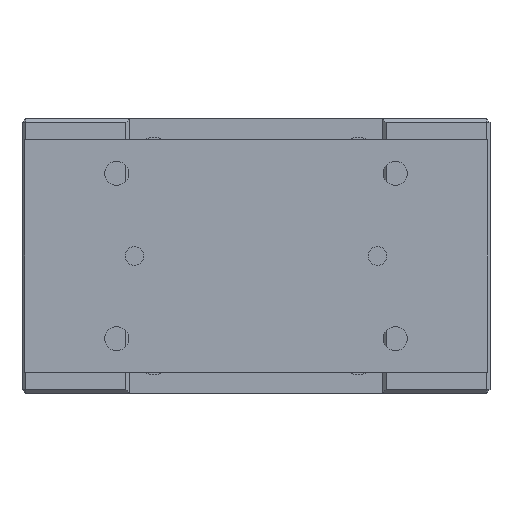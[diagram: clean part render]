
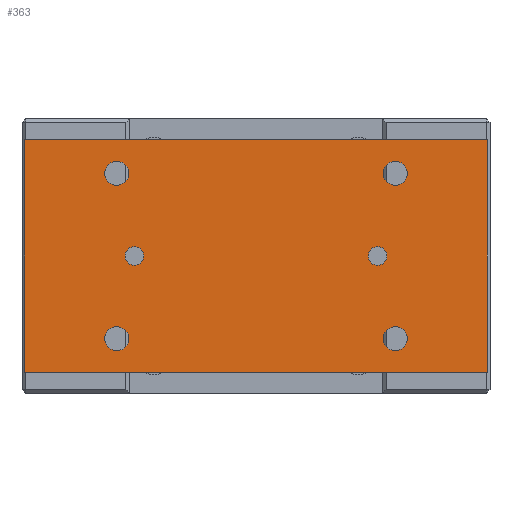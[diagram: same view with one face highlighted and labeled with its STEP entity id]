
A CAD part, left-side view. The second image highlights one B-rep face of the part: STEP entity #363.
In plain terms, the highlighted planar face has unit normal (-1, 0, 0).
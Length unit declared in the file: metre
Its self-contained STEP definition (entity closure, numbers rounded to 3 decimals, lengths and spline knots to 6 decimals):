
#363 = ADVANCED_FACE( '', ( #929, #930, #931, #932, #933, #934, #935 ), #936, .T. );
#929 = FACE_BOUND( '', #1819, .T. );
#930 = FACE_BOUND( '', #1820, .T. );
#931 = FACE_BOUND( '', #1821, .T. );
#932 = FACE_BOUND( '', #1822, .T. );
#933 = FACE_BOUND( '', #1823, .T. );
#934 = FACE_BOUND( '', #1824, .T. );
#935 = FACE_OUTER_BOUND( '', #1825, .T. );
#936 = PLANE( '', #1826 );
#1819 = EDGE_LOOP( '', ( #2866 ) );
#1820 = EDGE_LOOP( '', ( #2867 ) );
#1821 = EDGE_LOOP( '', ( #2868 ) );
#1822 = EDGE_LOOP( '', ( #2869 ) );
#1823 = EDGE_LOOP( '', ( #2870 ) );
#1824 = EDGE_LOOP( '', ( #2871 ) );
#1825 = EDGE_LOOP( '', ( #2872, #2873, #2874, #2875 ) );
#1826 = AXIS2_PLACEMENT_3D( '', #2876, #2877, #2878 );
#2866 = ORIENTED_EDGE( '', *, *, #4450, .F. );
#2867 = ORIENTED_EDGE( '', *, *, #4451, .T. );
#2868 = ORIENTED_EDGE( '', *, *, #4364, .F. );
#2869 = ORIENTED_EDGE( '', *, *, #4452, .F. );
#2870 = ORIENTED_EDGE( '', *, *, #4453, .F. );
#2871 = ORIENTED_EDGE( '', *, *, #4454, .F. );
#2872 = ORIENTED_EDGE( '', *, *, #4299, .T. );
#2873 = ORIENTED_EDGE( '', *, *, #4455, .T. );
#2874 = ORIENTED_EDGE( '', *, *, #4456, .T. );
#2875 = ORIENTED_EDGE( '', *, *, #4457, .T. );
#2876 = CARTESIAN_POINT( '', ( -0.143, -0.1245, -0.0115 ) );
#2877 = DIRECTION( '', ( -1., 0., 0. ) );
#2878 = DIRECTION( '', ( 0., 0., 1. ) );
#4299 = EDGE_CURVE( '', #4952, #4950, #4953, .T. );
#4364 = EDGE_CURVE( '', #5062, #5062, #5063, .T. );
#4450 = EDGE_CURVE( '', #5198, #5198, #5199, .T. );
#4451 = EDGE_CURVE( '', #5200, #5200, #5201, .T. );
#4452 = EDGE_CURVE( '', #5202, #5202, #5203, .T. );
#4453 = EDGE_CURVE( '', #5204, #5204, #5205, .T. );
#4454 = EDGE_CURVE( '', #5206, #5206, #5207, .T. );
#4455 = EDGE_CURVE( '', #4950, #5208, #5209, .T. );
#4456 = EDGE_CURVE( '', #5208, #5210, #5211, .T. );
#4457 = EDGE_CURVE( '', #5210, #4952, #5212, .T. );
#4950 = VERTEX_POINT( '', #5882 );
#4952 = VERTEX_POINT( '', #5885 );
#4953 = LINE( '', #5886, #5887 );
#5062 = VERTEX_POINT( '', #6030 );
#5063 = CIRCLE( '', #6031, 0.0065 );
#5198 = VERTEX_POINT( '', #6272 );
#5199 = CIRCLE( '', #6273, 0.005 );
#5200 = VERTEX_POINT( '', #6274 );
#5201 = CIRCLE( '', #6275, 0.005 );
#5202 = VERTEX_POINT( '', #6276 );
#5203 = CIRCLE( '', #6277, 0.0065 );
#5204 = VERTEX_POINT( '', #6278 );
#5205 = CIRCLE( '', #6279, 0.0065 );
#5206 = VERTEX_POINT( '', #6280 );
#5207 = CIRCLE( '', #6281, 0.0065 );
#5208 = VERTEX_POINT( '', #6282 );
#5209 = LINE( '', #6283, #6284 );
#5210 = VERTEX_POINT( '', #6285 );
#5211 = LINE( '', #6286, #6287 );
#5212 = LINE( '', #6288, #6289 );
#5882 = CARTESIAN_POINT( '', ( -0.143, -0.1245, -0.0115 ) );
#5885 = CARTESIAN_POINT( '', ( -0.143, -0.1245, -0.1365 ) );
#5886 = CARTESIAN_POINT( '', ( -0.143, -0.1245, -0.1365 ) );
#5887 = VECTOR( '', #7315, 1. );
#6030 = CARTESIAN_POINT( '', ( -0.143, -0.075, -0.112 ) );
#6031 = AXIS2_PLACEMENT_3D( '', #7395, #7396, #7397 );
#6272 = CARTESIAN_POINT( '', ( -0.143, -0.0705, -0.074 ) );
#6273 = AXIS2_PLACEMENT_3D( '', #7489, #7490, #7491 );
#6274 = CARTESIAN_POINT( '', ( -0.143, 0.0705, -0.074 ) );
#6275 = AXIS2_PLACEMENT_3D( '', #7492, #7493, #7494 );
#6276 = CARTESIAN_POINT( '', ( -0.143, 0.075, -0.112 ) );
#6277 = AXIS2_PLACEMENT_3D( '', #7495, #7496, #7497 );
#6278 = CARTESIAN_POINT( '', ( -0.143, -0.075, -0.023 ) );
#6279 = AXIS2_PLACEMENT_3D( '', #7498, #7499, #7500 );
#6280 = CARTESIAN_POINT( '', ( -0.143, 0.075, -0.023 ) );
#6281 = AXIS2_PLACEMENT_3D( '', #7501, #7502, #7503 );
#6282 = CARTESIAN_POINT( '', ( -0.143, 0.1245, -0.0115 ) );
#6283 = CARTESIAN_POINT( '', ( -0.143, -0.1245, -0.0115 ) );
#6284 = VECTOR( '', #7504, 1. );
#6285 = CARTESIAN_POINT( '', ( -0.143, 0.1245, -0.1365 ) );
#6286 = CARTESIAN_POINT( '', ( -0.143, 0.1245, -0.0115 ) );
#6287 = VECTOR( '', #7505, 1. );
#6288 = CARTESIAN_POINT( '', ( -0.143, 0.1245, -0.1365 ) );
#6289 = VECTOR( '', #7506, 1. );
#7315 = DIRECTION( '', ( 0., 0., 1. ) );
#7395 = CARTESIAN_POINT( '', ( -0.143, -0.075, -0.1185 ) );
#7396 = DIRECTION( '', ( -1., 0., 0. ) );
#7397 = DIRECTION( '', ( 0., 0., 1. ) );
#7489 = CARTESIAN_POINT( '', ( -0.143, -0.0655, -0.074 ) );
#7490 = DIRECTION( '', ( -1., 0., 0. ) );
#7491 = DIRECTION( '', ( 0., -1., 0. ) );
#7492 = CARTESIAN_POINT( '', ( -0.143, 0.0655, -0.074 ) );
#7493 = DIRECTION( '', ( 1., 0., 0. ) );
#7494 = DIRECTION( '', ( 0., 1., 0. ) );
#7495 = CARTESIAN_POINT( '', ( -0.143, 0.075, -0.1185 ) );
#7496 = DIRECTION( '', ( -1., 0., 0. ) );
#7497 = DIRECTION( '', ( 0., 0., 1. ) );
#7498 = CARTESIAN_POINT( '', ( -0.143, -0.075, -0.0295 ) );
#7499 = DIRECTION( '', ( -1., 0., 0. ) );
#7500 = DIRECTION( '', ( 0., 0., 1. ) );
#7501 = CARTESIAN_POINT( '', ( -0.143, 0.075, -0.0295 ) );
#7502 = DIRECTION( '', ( -1., 0., 0. ) );
#7503 = DIRECTION( '', ( 0., 0., 1. ) );
#7504 = DIRECTION( '', ( 0., 1., 0. ) );
#7505 = DIRECTION( '', ( 0., 0., -1. ) );
#7506 = DIRECTION( '', ( 0., -1., 0. ) );
